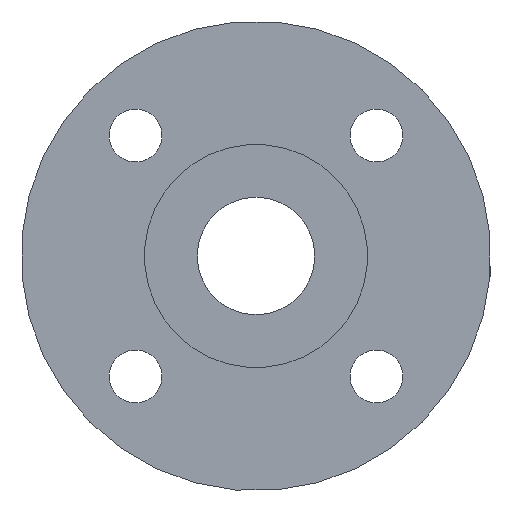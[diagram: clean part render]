
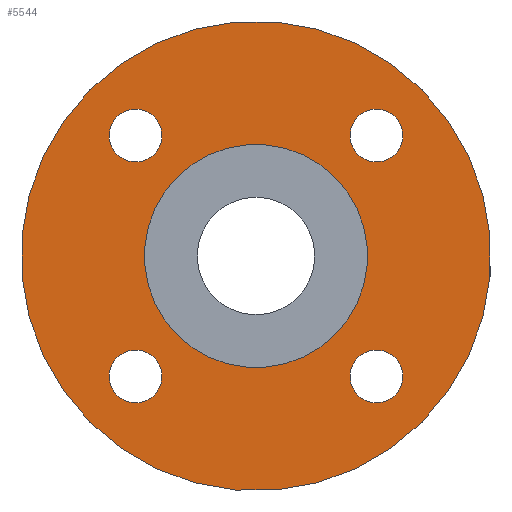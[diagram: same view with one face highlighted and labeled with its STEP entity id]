
A CAD part, left-side view. The second image highlights one B-rep face of the part: STEP entity #5544.
In plain terms, the highlighted planar face has unit normal (-1, 0, 0).
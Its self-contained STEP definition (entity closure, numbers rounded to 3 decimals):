
#112=CIRCLE('',#5898,9.5);
#114=CIRCLE('',#5903,2.25);
#115=CIRCLE('',#5904,2.25);
#116=CIRCLE('',#5905,2.25);
#117=CIRCLE('',#5906,2.25);
#118=CIRCLE('',#5907,20.);
#506=ORIENTED_EDGE('',*,*,#2101,.T.);
#507=ORIENTED_EDGE('',*,*,#2102,.T.);
#508=ORIENTED_EDGE('',*,*,#2103,.T.);
#509=ORIENTED_EDGE('',*,*,#2104,.T.);
#510=ORIENTED_EDGE('',*,*,#2105,.F.);
#511=ORIENTED_EDGE('',*,*,#2099,.T.);
#2099=EDGE_CURVE('',#2898,#2898,#112,.T.);
#2101=EDGE_CURVE('',#2900,#2900,#114,.T.);
#2102=EDGE_CURVE('',#2901,#2901,#115,.T.);
#2103=EDGE_CURVE('',#2902,#2902,#116,.T.);
#2104=EDGE_CURVE('',#2903,#2903,#117,.T.);
#2105=EDGE_CURVE('',#2904,#2904,#118,.T.);
#2898=VERTEX_POINT('',#8748);
#2900=VERTEX_POINT('',#8755);
#2901=VERTEX_POINT('',#8757);
#2902=VERTEX_POINT('',#8759);
#2903=VERTEX_POINT('',#8761);
#2904=VERTEX_POINT('',#8763);
#4541=EDGE_LOOP('',(#506));
#4542=EDGE_LOOP('',(#507));
#4543=EDGE_LOOP('',(#508));
#4544=EDGE_LOOP('',(#509));
#4545=EDGE_LOOP('',(#510));
#4546=EDGE_LOOP('',(#511));
#4942=FACE_BOUND('',#4541,.T.);
#4943=FACE_BOUND('',#4542,.T.);
#4944=FACE_BOUND('',#4543,.T.);
#4945=FACE_BOUND('',#4544,.T.);
#4946=FACE_BOUND('',#4545,.T.);
#4947=FACE_BOUND('',#4546,.T.);
#5291=PLANE('',#5902);
#5544=ADVANCED_FACE('',(#4942,#4943,#4944,#4945,#4946,#4947),#5291,.F.);
#5898=AXIS2_PLACEMENT_3D('',#8747,#6409,#6410);
#5902=AXIS2_PLACEMENT_3D('',#8753,#6417,#6418);
#5903=AXIS2_PLACEMENT_3D('',#8754,#6419,#6420);
#5904=AXIS2_PLACEMENT_3D('',#8756,#6421,#6422);
#5905=AXIS2_PLACEMENT_3D('',#8758,#6423,#6424);
#5906=AXIS2_PLACEMENT_3D('',#8760,#6425,#6426);
#5907=AXIS2_PLACEMENT_3D('',#8762,#6427,#6428);
#6409=DIRECTION('',(1.,0.,0.));
#6410=DIRECTION('',(0.,0.707,-0.707));
#6417=DIRECTION('',(1.,0.,0.));
#6418=DIRECTION('',(0.,0.707,-0.707));
#6419=DIRECTION('',(1.,0.,0.));
#6420=DIRECTION('',(0.,0.707,-0.707));
#6421=DIRECTION('',(1.,0.,0.));
#6422=DIRECTION('',(0.,0.707,-0.707));
#6423=DIRECTION('',(1.,0.,0.));
#6424=DIRECTION('',(0.,0.707,-0.707));
#6425=DIRECTION('',(1.,0.,0.));
#6426=DIRECTION('',(0.,0.707,-0.707));
#6427=DIRECTION('',(1.,0.,0.));
#6428=DIRECTION('',(0.,0.707,-0.707));
#8747=CARTESIAN_POINT('',(21.5,0.,0.));
#8748=CARTESIAN_POINT('',(21.5,6.718,-6.718));
#8753=CARTESIAN_POINT('',(21.5,0.,0.));
#8754=CARTESIAN_POINT('',(21.5,10.253,-10.253));
#8755=CARTESIAN_POINT('',(21.5,11.844,-11.844));
#8756=CARTESIAN_POINT('',(21.5,-10.253,-10.253));
#8757=CARTESIAN_POINT('',(21.5,-8.662,-11.844));
#8758=CARTESIAN_POINT('',(21.5,-10.253,10.253));
#8759=CARTESIAN_POINT('',(21.5,-8.662,8.662));
#8760=CARTESIAN_POINT('',(21.5,10.253,10.253));
#8761=CARTESIAN_POINT('',(21.5,11.844,8.662));
#8762=CARTESIAN_POINT('',(21.5,0.,0.));
#8763=CARTESIAN_POINT('',(21.5,14.142,-14.142));
